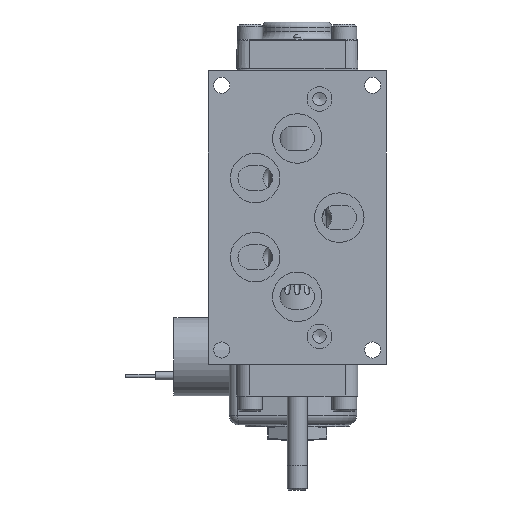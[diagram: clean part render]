
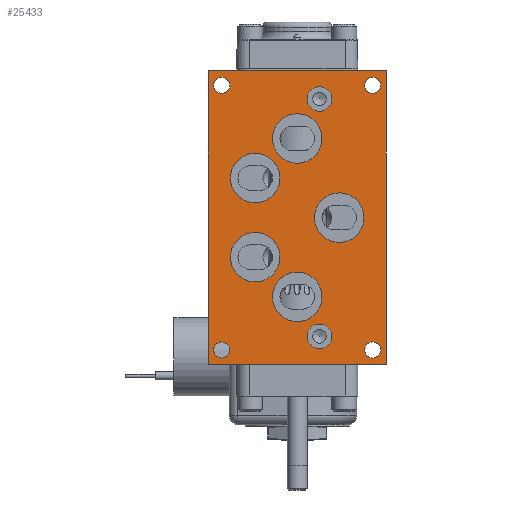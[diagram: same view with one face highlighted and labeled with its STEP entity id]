
A CAD part, front view. The second image highlights one B-rep face of the part: STEP entity #25433.
In plain terms, the highlighted planar face has unit normal (0, -1, 0).
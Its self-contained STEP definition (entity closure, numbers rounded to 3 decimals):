
#906=FACE_BOUND('',#7613,.T.);
#907=FACE_BOUND('',#7614,.T.);
#908=FACE_BOUND('',#7615,.T.);
#909=FACE_BOUND('',#7616,.T.);
#910=FACE_BOUND('',#7617,.T.);
#911=FACE_BOUND('',#7618,.T.);
#912=FACE_BOUND('',#7619,.T.);
#913=FACE_BOUND('',#7620,.T.);
#914=FACE_BOUND('',#7621,.T.);
#915=FACE_BOUND('',#7622,.T.);
#916=FACE_BOUND('',#7623,.T.);
#2653=LINE('',#45937,#4280);
#2657=LINE('',#45946,#4284);
#2659=LINE('',#45949,#4286);
#2660=LINE('',#45950,#4287);
#4280=VECTOR('',#34170,1.);
#4284=VECTOR('',#34180,1.);
#4286=VECTOR('',#34184,1.);
#4287=VECTOR('',#34185,1.);
#5994=FACE_OUTER_BOUND('',#7612,.T.);
#7612=EDGE_LOOP('',(#20612,#20613,#20614,#20615));
#7613=EDGE_LOOP('',(#20616,#20617));
#7614=EDGE_LOOP('',(#20618,#20619));
#7615=EDGE_LOOP('',(#20620,#20621));
#7616=EDGE_LOOP('',(#20622,#20623));
#7617=EDGE_LOOP('',(#20624,#20625));
#7618=EDGE_LOOP('',(#20626,#20627));
#7619=EDGE_LOOP('',(#20628,#20629));
#7620=EDGE_LOOP('',(#20630));
#7621=EDGE_LOOP('',(#20631));
#7622=EDGE_LOOP('',(#20632));
#7623=EDGE_LOOP('',(#20633));
#9007=CIRCLE('',#27835,0.396);
#9008=CIRCLE('',#27836,0.396);
#9014=CIRCLE('',#27846,0.396);
#9015=CIRCLE('',#27847,0.396);
#9018=CIRCLE('',#27853,0.794);
#9019=CIRCLE('',#27854,0.794);
#9022=CIRCLE('',#27859,0.794);
#9023=CIRCLE('',#27860,0.794);
#9026=CIRCLE('',#27865,0.794);
#9027=CIRCLE('',#27866,0.794);
#9030=CIRCLE('',#27871,0.794);
#9031=CIRCLE('',#27872,0.794);
#9034=CIRCLE('',#27877,0.794);
#9035=CIRCLE('',#27878,0.794);
#9052=CIRCLE('',#27903,0.258);
#9056=CIRCLE('',#27909,0.258);
#9060=CIRCLE('',#27915,0.258);
#9064=CIRCLE('',#27921,0.258);
#11116=VERTEX_POINT('',#45713);
#11117=VERTEX_POINT('',#45714);
#11124=VERTEX_POINT('',#45735);
#11125=VERTEX_POINT('',#45736);
#11128=VERTEX_POINT('',#45748);
#11129=VERTEX_POINT('',#45749);
#11132=VERTEX_POINT('',#45759);
#11133=VERTEX_POINT('',#45760);
#11136=VERTEX_POINT('',#45770);
#11137=VERTEX_POINT('',#45771);
#11140=VERTEX_POINT('',#45781);
#11141=VERTEX_POINT('',#45782);
#11144=VERTEX_POINT('',#45792);
#11145=VERTEX_POINT('',#45793);
#11162=VERTEX_POINT('',#45845);
#11168=VERTEX_POINT('',#45860);
#11174=VERTEX_POINT('',#45875);
#11180=VERTEX_POINT('',#45890);
#11193=VERTEX_POINT('',#45933);
#11194=VERTEX_POINT('',#45935);
#11195=VERTEX_POINT('',#45943);
#11196=VERTEX_POINT('',#45945);
#14360=EDGE_CURVE('',#11116,#11117,#9007,.T.);
#14361=EDGE_CURVE('',#11117,#11116,#9008,.T.);
#14370=EDGE_CURVE('',#11124,#11125,#9014,.T.);
#14371=EDGE_CURVE('',#11125,#11124,#9015,.T.);
#14376=EDGE_CURVE('',#11128,#11129,#9018,.T.);
#14377=EDGE_CURVE('',#11129,#11128,#9019,.T.);
#14381=EDGE_CURVE('',#11132,#11133,#9022,.T.);
#14382=EDGE_CURVE('',#11133,#11132,#9023,.T.);
#14386=EDGE_CURVE('',#11136,#11137,#9026,.T.);
#14387=EDGE_CURVE('',#11137,#11136,#9027,.T.);
#14391=EDGE_CURVE('',#11140,#11141,#9030,.T.);
#14392=EDGE_CURVE('',#11141,#11140,#9031,.T.);
#14396=EDGE_CURVE('',#11144,#11145,#9034,.T.);
#14397=EDGE_CURVE('',#11145,#11144,#9035,.T.);
#14424=EDGE_CURVE('',#11162,#11162,#9052,.T.);
#14431=EDGE_CURVE('',#11168,#11168,#9056,.T.);
#14438=EDGE_CURVE('',#11174,#11174,#9060,.T.);
#14445=EDGE_CURVE('',#11180,#11180,#9064,.T.);
#14468=EDGE_CURVE('',#11193,#11194,#2653,.T.);
#14472=EDGE_CURVE('',#11196,#11195,#2657,.T.);
#14474=EDGE_CURVE('',#11195,#11193,#2659,.T.);
#14475=EDGE_CURVE('',#11194,#11196,#2660,.T.);
#20612=ORIENTED_EDGE('',*,*,#14474,.T.);
#20613=ORIENTED_EDGE('',*,*,#14468,.T.);
#20614=ORIENTED_EDGE('',*,*,#14475,.T.);
#20615=ORIENTED_EDGE('',*,*,#14472,.T.);
#20616=ORIENTED_EDGE('',*,*,#14360,.T.);
#20617=ORIENTED_EDGE('',*,*,#14361,.T.);
#20618=ORIENTED_EDGE('',*,*,#14370,.T.);
#20619=ORIENTED_EDGE('',*,*,#14371,.T.);
#20620=ORIENTED_EDGE('',*,*,#14376,.T.);
#20621=ORIENTED_EDGE('',*,*,#14377,.T.);
#20622=ORIENTED_EDGE('',*,*,#14381,.T.);
#20623=ORIENTED_EDGE('',*,*,#14382,.T.);
#20624=ORIENTED_EDGE('',*,*,#14386,.T.);
#20625=ORIENTED_EDGE('',*,*,#14387,.T.);
#20626=ORIENTED_EDGE('',*,*,#14391,.T.);
#20627=ORIENTED_EDGE('',*,*,#14392,.T.);
#20628=ORIENTED_EDGE('',*,*,#14396,.T.);
#20629=ORIENTED_EDGE('',*,*,#14397,.T.);
#20630=ORIENTED_EDGE('',*,*,#14424,.T.);
#20631=ORIENTED_EDGE('',*,*,#14431,.T.);
#20632=ORIENTED_EDGE('',*,*,#14438,.T.);
#20633=ORIENTED_EDGE('',*,*,#14445,.T.);
#22929=PLANE('',#27933);
#25433=ADVANCED_FACE('',(#5994,#906,#907,#908,#909,#910,#911,#912,#913,
#914,#915,#916),#22929,.T.);
#27835=AXIS2_PLACEMENT_3D('',#45715,#33930,#33931);
#27836=AXIS2_PLACEMENT_3D('',#45716,#33932,#33933);
#27846=AXIS2_PLACEMENT_3D('',#45737,#33955,#33956);
#27847=AXIS2_PLACEMENT_3D('',#45738,#33957,#33958);
#27853=AXIS2_PLACEMENT_3D('',#45750,#33971,#33972);
#27854=AXIS2_PLACEMENT_3D('',#45751,#33973,#33974);
#27859=AXIS2_PLACEMENT_3D('',#45761,#33984,#33985);
#27860=AXIS2_PLACEMENT_3D('',#45762,#33986,#33987);
#27865=AXIS2_PLACEMENT_3D('',#45772,#33997,#33998);
#27866=AXIS2_PLACEMENT_3D('',#45773,#33999,#34000);
#27871=AXIS2_PLACEMENT_3D('',#45783,#34010,#34011);
#27872=AXIS2_PLACEMENT_3D('',#45784,#34012,#34013);
#27877=AXIS2_PLACEMENT_3D('',#45794,#34023,#34024);
#27878=AXIS2_PLACEMENT_3D('',#45795,#34025,#34026);
#27903=AXIS2_PLACEMENT_3D('',#45847,#34085,#34086);
#27909=AXIS2_PLACEMENT_3D('',#45862,#34100,#34101);
#27915=AXIS2_PLACEMENT_3D('',#45877,#34115,#34116);
#27921=AXIS2_PLACEMENT_3D('',#45892,#34130,#34131);
#27933=AXIS2_PLACEMENT_3D('',#45948,#34182,#34183);
#33930=DIRECTION('center_axis',(0.,1.,0.));
#33931=DIRECTION('ref_axis',(1.,0.,0.));
#33932=DIRECTION('center_axis',(0.,1.,0.));
#33933=DIRECTION('ref_axis',(1.,0.,0.));
#33955=DIRECTION('center_axis',(0.,1.,0.));
#33956=DIRECTION('ref_axis',(1.,0.,0.));
#33957=DIRECTION('center_axis',(0.,1.,0.));
#33958=DIRECTION('ref_axis',(1.,0.,0.));
#33971=DIRECTION('center_axis',(0.,1.,0.));
#33972=DIRECTION('ref_axis',(1.,0.,0.));
#33973=DIRECTION('center_axis',(0.,1.,0.));
#33974=DIRECTION('ref_axis',(1.,0.,0.));
#33984=DIRECTION('center_axis',(0.,1.,0.));
#33985=DIRECTION('ref_axis',(1.,0.,0.));
#33986=DIRECTION('center_axis',(0.,1.,0.));
#33987=DIRECTION('ref_axis',(1.,0.,0.));
#33997=DIRECTION('center_axis',(0.,1.,0.));
#33998=DIRECTION('ref_axis',(1.,0.,0.));
#33999=DIRECTION('center_axis',(0.,1.,0.));
#34000=DIRECTION('ref_axis',(1.,0.,0.));
#34010=DIRECTION('center_axis',(0.,1.,0.));
#34011=DIRECTION('ref_axis',(1.,0.,0.));
#34012=DIRECTION('center_axis',(0.,1.,0.));
#34013=DIRECTION('ref_axis',(1.,0.,0.));
#34023=DIRECTION('center_axis',(0.,1.,0.));
#34024=DIRECTION('ref_axis',(1.,0.,0.));
#34025=DIRECTION('center_axis',(0.,1.,0.));
#34026=DIRECTION('ref_axis',(1.,0.,0.));
#34085=DIRECTION('center_axis',(0.,1.,0.));
#34086=DIRECTION('ref_axis',(1.,0.,0.));
#34100=DIRECTION('center_axis',(0.,1.,0.));
#34101=DIRECTION('ref_axis',(1.,0.,0.));
#34115=DIRECTION('center_axis',(0.,1.,0.));
#34116=DIRECTION('ref_axis',(1.,0.,0.));
#34130=DIRECTION('center_axis',(0.,1.,0.));
#34131=DIRECTION('ref_axis',(1.,0.,0.));
#34170=DIRECTION('',(0.,0.,-1.));
#34180=DIRECTION('',(0.,0.,1.));
#34182=DIRECTION('center_axis',(0.,-1.,0.));
#34183=DIRECTION('ref_axis',(0.,0.,-1.));
#34184=DIRECTION('',(-1.,0.,0.));
#34185=DIRECTION('',(1.,0.,0.));
#45713=CARTESIAN_POINT('',(1.11,-1.636,-3.81));
#45714=CARTESIAN_POINT('',(0.318,-1.636,-3.81));
#45715=CARTESIAN_POINT('Origin',(0.714,-1.636,-3.81));
#45716=CARTESIAN_POINT('Origin',(0.714,-1.636,-3.81));
#45735=CARTESIAN_POINT('',(1.11,-1.636,3.81));
#45736=CARTESIAN_POINT('',(0.318,-1.636,3.81));
#45737=CARTESIAN_POINT('Origin',(0.714,-1.636,3.81));
#45738=CARTESIAN_POINT('Origin',(0.714,-1.636,3.81));
#45748=CARTESIAN_POINT('',(2.142,-1.636,0.));
#45749=CARTESIAN_POINT('',(0.555,-1.636,0.));
#45750=CARTESIAN_POINT('Origin',(1.349,-1.636,0.));
#45751=CARTESIAN_POINT('Origin',(1.349,-1.636,0.));
#45759=CARTESIAN_POINT('',(0.794,-1.636,-2.54));
#45760=CARTESIAN_POINT('',(-0.794,-1.636,-2.54));
#45761=CARTESIAN_POINT('Origin',(0.,-1.636,-2.54));
#45762=CARTESIAN_POINT('Origin',(0.,-1.636,-2.54));
#45770=CARTESIAN_POINT('',(0.794,-1.636,2.54));
#45771=CARTESIAN_POINT('',(-0.794,-1.636,2.54));
#45772=CARTESIAN_POINT('Origin',(0.,-1.636,2.54));
#45773=CARTESIAN_POINT('Origin',(0.,-1.636,2.54));
#45781=CARTESIAN_POINT('',(-0.555,-1.636,-1.27));
#45782=CARTESIAN_POINT('',(-2.142,-1.636,-1.27));
#45783=CARTESIAN_POINT('Origin',(-1.349,-1.636,-1.27));
#45784=CARTESIAN_POINT('Origin',(-1.349,-1.636,-1.27));
#45792=CARTESIAN_POINT('',(-0.555,-1.636,1.27));
#45793=CARTESIAN_POINT('',(-2.142,-1.636,1.27));
#45794=CARTESIAN_POINT('Origin',(-1.349,-1.636,1.27));
#45795=CARTESIAN_POINT('Origin',(-1.349,-1.636,1.27));
#45845=CARTESIAN_POINT('',(-2.679,-1.636,4.247));
#45847=CARTESIAN_POINT('Origin',(-2.421,-1.636,4.247));
#45860=CARTESIAN_POINT('',(2.163,-1.636,4.247));
#45862=CARTESIAN_POINT('Origin',(2.421,-1.636,4.247));
#45875=CARTESIAN_POINT('',(2.163,-1.636,-4.247));
#45877=CARTESIAN_POINT('Origin',(2.421,-1.636,-4.247));
#45890=CARTESIAN_POINT('',(-2.679,-1.636,-4.247));
#45892=CARTESIAN_POINT('Origin',(-2.421,-1.636,-4.247));
#45933=CARTESIAN_POINT('',(-2.858,-1.636,4.71));
#45935=CARTESIAN_POINT('',(-2.858,-1.636,-4.71));
#45937=CARTESIAN_POINT('',(-2.858,-1.636,0.));
#45943=CARTESIAN_POINT('',(2.858,-1.636,4.71));
#45945=CARTESIAN_POINT('',(2.858,-1.636,-4.71));
#45946=CARTESIAN_POINT('',(2.858,-1.636,0.));
#45948=CARTESIAN_POINT('Origin',(2.858,-1.636,0.));
#45949=CARTESIAN_POINT('',(-2.858,-1.636,4.71));
#45950=CARTESIAN_POINT('',(-2.858,-1.636,-4.71));
